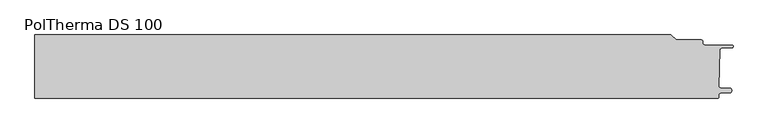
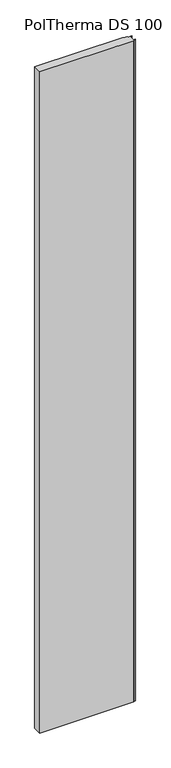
"""IFC4 building model written with IfcOpenShell, lengths in millimetres: plate geometry, Europanels_Poltherma DS_Vt : PolTherma DS 100."""

from ifc_helpers import new_model, si_unit, frame, origin, place, context, project, spatial, polyline, circle_curve, source, transform, mapped, element, save
from ifc_brep_helpers import plane_surface, cylinder_surface, revolved_surface, advanced_brep


def poltherma_ds_100_3d92d139(model_context):
    return source(origin(), model_context, "Body", "AdvancedBrep", [
        advanced_brep(
        [(493.5403652, 50.0, 8000.0), (-512.5, 50.0, 8000.0), (-512.5, -50.0, 8000.0), (567.284556, -50.0, 8000.0), (569.284556, -48.0, 8000.0), (569.284556, -44.2387891, 8000.0), (571.1551788, -42.2429781, 8000.0), (587.4139331, -41.1890147, 8000.0), (589.284556, -39.1932037, 8000.0), (589.284556, -36.4439626, 8000.0), (587.3739391, -34.4459609, 8000.0), (571.1951728, -33.7221833, 8000.0), (569.2845579, -31.7214107, 8000.0), (570.7879082, 26.3196392, 8000.0), (573.0928147, 28.6828547, 8000.0), (589.6221028, 29.3477551, 8000.0), (591.7906338, 31.6046042, 8000.0), (589.5384636, 33.9737327, 8000.0), (546.284556, 34.0, 8000.0), (543.784556, 36.5, 8000.0), (543.784556, 39.5, 8000.0), (541.284556, 42.0, 8000.0), (502.0306815, 42.0, 8000.0), (493.5403652, 50.0, 0.0), (502.0306815, 42.0, 0.0), (541.284556, 42.0, 0.0), (543.784556, 39.5, 0.0), (543.784556, 36.5, 0.0), (546.284556, 34.0, 0.0), (589.534556, 34.0, 0.0), (591.7906338, 31.6046042, 0.0), (589.6221028, 29.3477551, 0.0), (573.0928147, 28.6828547, 0.0), (570.7879082, 26.3196392, 0.0), (569.2845579, -31.7214107, 0.0), (571.1951728, -33.7221833, 0.0), (587.3739391, -34.4459609, 0.0), (589.284556, -36.4439626, 0.0), (589.284556, -39.1932037, 0.0), (587.4139331, -41.1890147, 0.0), (571.1551788, -42.2429781, 0.0), (569.284556, -44.2387891, 0.0), (569.284556, -48.0, 0.0), (567.284556, -50.0, 0.0), (-512.5, -50.0, 0.0), (-512.5, 50.0, 0.0)],
        [
            (0, 1),
            (1, 2),
            (2, 3),
            (3, 4, circle_curve(frame((567.284556, -48.0, 8000.0), z_axis=(0.0, 0.0, 1.0), x_axis=(1.0, 0.0, 0.0)), 2.0)),
            (4, 5),
            (5, 6, circle_curve(frame((571.284556, -44.2387891, 8000.0), z_axis=(0.0, 0.0, -1.0), x_axis=(1.0, 0.0, 0.0)), 2.0)),
            (6, 7),
            (7, 8, circle_curve(frame((587.284556, -39.1932037, 8000.0), z_axis=(0.0, 0.0, 1.0), x_axis=(1.0, 0.0, 0.0)), 2.0)),
            (8, 9),
            (9, 10, circle_curve(frame((587.284556, -36.4439626, 8000.0), z_axis=(0.0, 0.0, 1.0), x_axis=(1.0, 0.0, 0.0)), 2.0)),
            (10, 11),
            (11, 12, circle_curve(frame((571.284556, -31.7241817, 8000.0), z_axis=(0.0, 0.0, -1.0), x_axis=(1.0, 0.0, 0.0)), 2.0)),
            (12, 13),
            (13, 14, circle_curve(frame((573.284556, 26.1902185, 8000.0), z_axis=(0.0, 0.0, -1.0), x_axis=(1.0, 0.0, 0.0)), 2.5)),
            (14, 15),
            (15, 16, circle_curve(frame((589.5319862, 31.6046042, 8000.0), z_axis=(0.0, 0.0, 1.0), x_axis=(1.0, 0.0, 0.0)), 2.2586476)),
            (16, 17, circle_curve(frame((589.5384636, 31.7186756, 8000.0), z_axis=(0.0, 0.0, 1.0), x_axis=(1.0, 0.0, 0.0)), 2.2550571)),
            (17, 18),
            (18, 19, circle_curve(frame((546.284556, 36.5, 8000.0), z_axis=(0.0, 0.0, -1.0), x_axis=(1.0, 0.0, 0.0)), 2.5)),
            (19, 20),
            (20, 21, circle_curve(frame((541.284556, 39.5, 8000.0), z_axis=(0.0, 0.0, 1.0), x_axis=(1.0, 0.0, 0.0)), 2.5)),
            (21, 22),
            (22, 0),
            (23, 24),
            (24, 25),
            (25, 26, circle_curve(frame((541.284556, 39.5, 0.0), z_axis=(0.0, 0.0, -1.0), x_axis=(1.0, 0.0, 0.0)), 2.5)),
            (26, 27),
            (27, 28, circle_curve(frame((546.284556, 36.5, 0.0), z_axis=(0.0, 0.0, 1.0), x_axis=(1.0, 0.0, 0.0)), 2.5)),
            (28, 29),
            (29, 30, circle_curve(frame((589.5384636, 31.7186756, 0.0), z_axis=(0.0, 0.0, -1.0), x_axis=(1.0, 0.0, 0.0)), 2.2550571)),
            (30, 31, circle_curve(frame((589.5319862, 31.6046042, 0.0), z_axis=(0.0, 0.0, -1.0), x_axis=(1.0, 0.0, 0.0)), 2.2586476)),
            (31, 32),
            (32, 33, circle_curve(frame((573.284556, 26.1902185, 0.0), z_axis=(0.0, 0.0, 1.0), x_axis=(1.0, 0.0, 0.0)), 2.5)),
            (33, 34),
            (34, 35, circle_curve(frame((571.284556, -31.7241817, 0.0), z_axis=(0.0, 0.0, 1.0), x_axis=(1.0, 0.0, 0.0)), 2.0)),
            (35, 36),
            (36, 37, circle_curve(frame((587.284556, -36.4439626, 0.0), z_axis=(0.0, 0.0, -1.0), x_axis=(1.0, 0.0, 0.0)), 2.0)),
            (37, 38),
            (38, 39, circle_curve(frame((587.284556, -39.1932037, 0.0), z_axis=(0.0, 0.0, -1.0), x_axis=(1.0, 0.0, 0.0)), 2.0)),
            (39, 40),
            (40, 41, circle_curve(frame((571.284556, -44.2387891, 0.0), z_axis=(0.0, 0.0, 1.0), x_axis=(1.0, 0.0, 0.0)), 2.0)),
            (41, 42),
            (42, 43, circle_curve(frame((567.284556, -48.0, 0.0), z_axis=(0.0, 0.0, -1.0), x_axis=(1.0, 0.0, 0.0)), 2.0)),
            (43, 44),
            (44, 45),
            (45, 23),
            (0, 23),
            (45, 1),
            (2, 44),
            (43, 3),
            (42, 4),
            (41, 5),
            (40, 6),
            (39, 7),
            (38, 8),
            (37, 9),
            (36, 10),
            (35, 11),
            (34, 12),
            (33, 13),
            (32, 14),
            (31, 15),
            (30, 16),
            (29, 17),
            (28, 18),
            (27, 19),
            (26, 20),
            (25, 21),
            (24, 22),
        ],
        [
            plane_surface(frame((-512.5, 50.0, 8000.0), z_axis=(0.0, 0.0, 1.0), x_axis=(-1.0, 0.0, 0.0))),
            plane_surface(frame((-512.5, 50.0, 0.0), z_axis=(0.0, 0.0, -1.0), x_axis=(1.0, 0.0, 0.0))),
            plane_surface(frame((493.5403652, 50.0, 8000.0), z_axis=(0.0, 1.0, 0.0), x_axis=(0.0, 0.0, -1.0))),
            plane_surface(frame((-512.5, -50.0, 8000.0), z_axis=(0.0, -1.0, 0.0), x_axis=(0.0, 0.0, -1.0))),
            cylinder_surface(frame((567.284556, -48.0, 0.0), z_axis=(0.0, 0.0, 1.0), x_axis=(1.0, 0.0, 0.0)), 2.0),
            plane_surface(frame((569.284556, -48.0, 8000.0), z_axis=(1.0, 0.0, 0.0), x_axis=(0.0, 0.0, -1.0))),
            revolved_surface(polyline([(573.284556, -44.2387891, 0.0), (573.284556, -44.2387891, 8000.0)]), (571.284556, -44.2387891, 0.0), (0.0, 0.0, -1.0)),
            plane_surface(frame((571.1551788, -42.2429781, 8000.0), z_axis=(0.06468859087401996, -0.9979054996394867, 0.0), x_axis=(0.0, 0.0, -1.0))),
            cylinder_surface(frame((587.284556, -39.1932037, 0.0), z_axis=(0.0, 0.0, 1.0), x_axis=(1.0, 0.0, 0.0)), 2.0),
            plane_surface(frame((589.284556, -39.1932037, 8000.0), z_axis=(1.0, 2.2155669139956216e-12, 0.0), x_axis=(0.0, 0.0, -1.0))),
            cylinder_surface(frame((587.284556, -36.4439626, 0.0), z_axis=(0.0, 0.0, 1.0), x_axis=(1.0, 0.0, 0.0)), 2.0),
            plane_surface(frame((587.3739391, -34.4459609, 8000.0), z_axis=(0.044691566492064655, 0.9990008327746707, 0.0), x_axis=(0.0, 0.0, -1.0))),
            revolved_surface(polyline([(573.284556, -31.7241817, 0.0), (573.284556, -31.7241817, 8000.0)]), (571.284556, -31.7241817, 0.0), (0.0, 0.0, -1.0)),
            plane_surface(frame((569.2845579, -31.7214107, 8000.0), z_axis=(0.9996647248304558, -0.025892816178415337, 0.0), x_axis=(0.0, 0.0, -1.0))),
            revolved_surface(polyline([(575.784556, 26.1902185, 0.0), (575.784556, 26.1902185, 8000.0)]), (573.284556, 26.1902185, 0.0), (0.0, 0.0, -1.0)),
            plane_surface(frame((573.0928147, 28.6828547, 8000.0), z_axis=(0.04019308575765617, -0.9991919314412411, 0.0), x_axis=(0.0, 0.0, -1.0))),
            cylinder_surface(frame((589.5319862, 31.6046042, 0.0), z_axis=(0.0, 0.0, 1.0), x_axis=(1.0, 0.0, 0.0)), 2.2586476),
            cylinder_surface(frame((589.5384636, 31.7186756, 0.0), z_axis=(0.0, 0.0, 1.0), x_axis=(1.0, 0.0, 0.0)), 2.2550571),
            plane_surface(frame((589.534556, 34.0, 8000.0), z_axis=(0.0, 1.0, 0.0), x_axis=(0.0, 0.0, -1.0))),
            revolved_surface(polyline([(548.784556, 36.5, 0.0), (548.784556, 36.5, 8000.0)]), (546.284556, 36.5, 0.0), (0.0, 0.0, -1.0)),
            plane_surface(frame((543.784556, 36.5, 8000.0), z_axis=(1.0, 0.0, 0.0), x_axis=(0.0, 0.0, -1.0))),
            cylinder_surface(frame((541.284556, 39.5, 0.0), z_axis=(0.0, 0.0, 1.0), x_axis=(1.0, 0.0, 0.0)), 2.5),
            plane_surface(frame((541.284556, 42.0, 8000.0), z_axis=(0.0, 1.0, 0.0), x_axis=(0.0, 0.0, -1.0))),
            plane_surface(frame((502.0306815, 42.0, 8000.0), z_axis=(0.6857788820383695, 0.7278099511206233, 0.0), x_axis=(0.0, 0.0, -1.0))),
            plane_surface(frame((-512.5, 50.0, 8000.0), z_axis=(-1.0, 0.0, 0.0), x_axis=(0.0, 0.0, -1.0))),
        ],
        [
            (0, [[1, 2, 3, 4, 5, 6, 7, 8, 9, 10, 11, 12, 13, 14, 15, 16, 17, 18, 19, 20, 21, 22, 23]]),
            (1, [[24, 25, 26, 27, 28, 29, 30, 31, 32, 33, 34, 35, 36, 37, 38, 39, 40, 41, 42, 43, 44, 45, 46]]),
            (2, [[-1, 47, -46, 48]]),
            (3, [[-3, 49, -44, 50]]),
            (4, [[-4, -50, -43, 51]]),
            (5, [[-5, -51, -42, 52]]),
            (6, [[-6, -52, -41, 53]]),
            (7, [[-7, -53, -40, 54]]),
            (8, [[-8, -54, -39, 55]]),
            (9, [[-9, -55, -38, 56]]),
            (10, [[-10, -56, -37, 57]]),
            (11, [[-11, -57, -36, 58]]),
            (12, [[-12, -58, -35, 59]]),
            (13, [[-13, -59, -34, 60]]),
            (14, [[-14, -60, -33, 61]]),
            (15, [[-15, -61, -32, 62]]),
            (16, [[-16, -62, -31, 63]]),
            (17, [[-17, -63, -30, 64]]),
            (18, [[-18, -64, -29, 65]]),
            (19, [[-19, -65, -28, 66]]),
            (20, [[-20, -66, -27, 67]]),
            (21, [[-21, -67, -26, 68]]),
            (22, [[-22, -68, -25, 69]]),
            (23, [[-23, -69, -24, -47]]),
            (24, [[-2, -48, -45, -49]]),
        ],
    ),
    ])


if __name__ == "__main__":
    model = new_model("IFC4")
    model_context = context("Model", 3, world=origin())
    ifc_project = project(units=[si_unit("LENGTHUNIT", "METRE", prefix="MILLI")], contexts=[model_context])
    site = spatial("IfcSite", under=ifc_project)
    building = spatial("IfcBuilding", under=site)
    placement = place(None, origin())
    poltherma_ds_100_shape = poltherma_ds_100_3d92d139(model_context)
    element("IfcPlate", 1, ObjectType="Europanels_Poltherma DS_Vt : PolTherma DS 100", at=placement, inside=building, context=model_context, shape_type="MappedRepresentation", body=[
        mapped(poltherma_ds_100_shape, transform((0.0, 0.0, 0.0), x_axis=(1.0, 0.0, 0.0), y_axis=(0.0, 1.0, 0.0), z_axis=(0.0, 0.0, 1.0))),
    ])
    save(model, "model.ifc")
